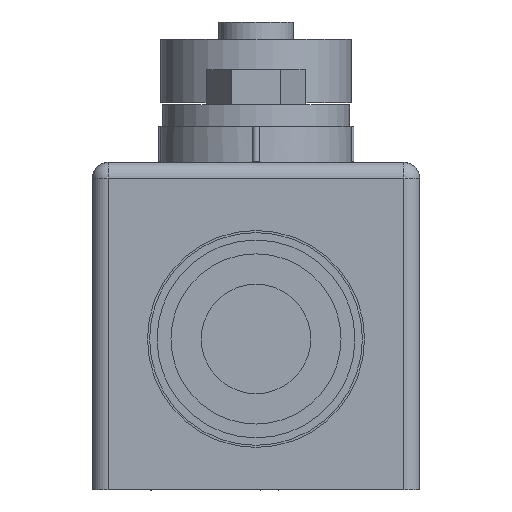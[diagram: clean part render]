
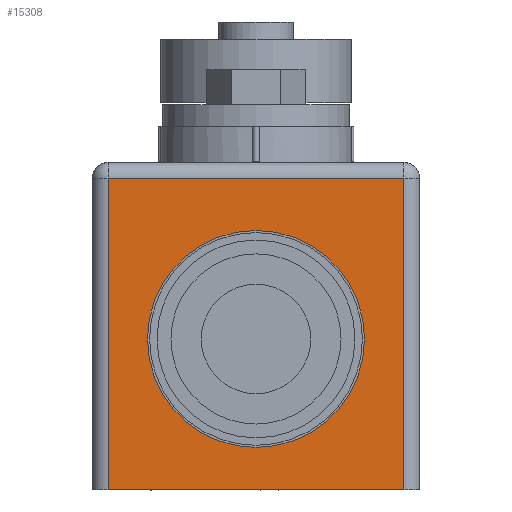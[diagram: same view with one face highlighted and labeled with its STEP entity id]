
A CAD part, front view. The second image highlights one B-rep face of the part: STEP entity #15308.
In plain terms, the highlighted planar face has unit normal (0, -1, 0).
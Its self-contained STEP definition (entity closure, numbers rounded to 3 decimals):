
#1 = VERTEX_POINT ( 'NONE', #28513 ) ;
#2 = EDGE_CURVE ( 'NONE', #1, #21801, #28512, .T. ) ;
#3 = ORIENTED_EDGE ( 'NONE', *, *, #21803, .T. ) ;
#4 = ORIENTED_EDGE ( 'NONE', *, *, #2, .F. ) ;
#5 = EDGE_CURVE ( 'NONE', #8, #21804, #28573, .T. ) ;
#6 = ORIENTED_EDGE ( 'NONE', *, *, #9, .T. ) ;
#7 = ORIENTED_EDGE ( 'NONE', *, *, #5, .T. ) ;
#8 = VERTEX_POINT ( 'NONE', #28569 ) ;
#9 = EDGE_CURVE ( 'NONE', #1, #8, #28568, .T. ) ;
#10 = ORIENTED_EDGE ( 'NONE', *, *, #21575, .F. ) ;
#11 = EDGE_LOOP ( 'NONE', ( #3, #4, #6, #7 ) ) ;
#8193 = CARTESIAN_POINT ( 'NONE',  ( 0., -51.5, 12.2 ) ) ;
#8194 = DIRECTION ( 'NONE',  ( 0., 0., -1. ) ) ;
#8195 = DIRECTION ( 'NONE',  ( 0., -1., 0. ) ) ;
#8196 = CARTESIAN_POINT ( 'NONE',  ( 0., -51.5, 2. ) ) ;
#8197 = AXIS2_PLACEMENT_3D ( 'NONE', #8196, #8195, #8194 ) ;
#8198 = CIRCLE ( 'NONE', #8197, 10.2 ) ;
#8370 = CARTESIAN_POINT ( 'NONE',  ( 0., -51.5, -8.2 ) ) ;
#8719 = CARTESIAN_POINT ( 'NONE',  ( -13.9, -51.5, -12.2 ) ) ;
#8720 = DIRECTION ( 'NONE',  ( 1., 0., 0. ) ) ;
#8721 = VECTOR ( 'NONE', #8720, 1000. ) ;
#8722 = CARTESIAN_POINT ( 'NONE',  ( 0., -51.5, -12.2 ) ) ;
#8723 = LINE ( 'NONE', #8722, #8721 ) ;
#8724 = CARTESIAN_POINT ( 'NONE',  ( 13.9, -51.5, -12.2 ) ) ;
#12973 = EDGE_CURVE ( 'NONE', #21635, #21576, #28723, .T. ) ;
#13010 = ORIENTED_EDGE ( 'NONE', *, *, #12973, .F. ) ;
#13065 = EDGE_LOOP ( 'NONE', ( #13010, #10 ) ) ;
#15308 = ADVANCED_FACE ( 'NONE', ( #28718, #28717 ), #28716, .F. ) ;
#21575 = EDGE_CURVE ( 'NONE', #21576, #21635, #8198, .T. ) ;
#21576 = VERTEX_POINT ( 'NONE', #8193 ) ;
#21635 = VERTEX_POINT ( 'NONE', #8370 ) ;
#21801 = VERTEX_POINT ( 'NONE', #8724 ) ;
#21803 = EDGE_CURVE ( 'NONE', #21804, #21801, #8723, .T. ) ;
#21804 = VERTEX_POINT ( 'NONE', #8719 ) ;
#28509 = DIRECTION ( 'NONE',  ( 0., 0., -1. ) ) ;
#28510 = VECTOR ( 'NONE', #28509, 1000. ) ;
#28511 = CARTESIAN_POINT ( 'NONE',  ( 13.9, -51.5, 18.6 ) ) ;
#28512 = LINE ( 'NONE', #28511, #28510 ) ;
#28513 = CARTESIAN_POINT ( 'NONE',  ( 13.9, -51.5, 17.1 ) ) ;
#28565 = DIRECTION ( 'NONE',  ( -1., 0., 0. ) ) ;
#28566 = VECTOR ( 'NONE', #28565, 1000. ) ;
#28567 = CARTESIAN_POINT ( 'NONE',  ( 0., -51.5, 17.1 ) ) ;
#28568 = LINE ( 'NONE', #28567, #28566 ) ;
#28569 = CARTESIAN_POINT ( 'NONE',  ( -13.9, -51.5, 17.1 ) ) ;
#28570 = DIRECTION ( 'NONE',  ( 0., 0., -1. ) ) ;
#28571 = VECTOR ( 'NONE', #28570, 1000. ) ;
#28572 = CARTESIAN_POINT ( 'NONE',  ( -13.9, -51.5, 18.6 ) ) ;
#28573 = LINE ( 'NONE', #28572, #28571 ) ;
#28712 = DIRECTION ( 'NONE',  ( 0., 0., 1. ) ) ;
#28713 = DIRECTION ( 'NONE',  ( 0., 1., 0. ) ) ;
#28714 = CARTESIAN_POINT ( 'NONE',  ( 0., -51.5, 18.6 ) ) ;
#28715 = AXIS2_PLACEMENT_3D ( 'NONE', #28714, #28713, #28712 ) ;
#28716 = PLANE ( 'NONE',  #28715 ) ;
#28717 = FACE_OUTER_BOUND ( 'NONE', #11, .T. ) ;
#28718 = FACE_BOUND ( 'NONE', #13065, .T. ) ;
#28719 = DIRECTION ( 'NONE',  ( 0., 0., -1. ) ) ;
#28720 = DIRECTION ( 'NONE',  ( 0., -1., 0. ) ) ;
#28721 = CARTESIAN_POINT ( 'NONE',  ( 0., -51.5, 2. ) ) ;
#28722 = AXIS2_PLACEMENT_3D ( 'NONE', #28721, #28720, #28719 ) ;
#28723 = CIRCLE ( 'NONE', #28722, 10.2 ) ;
